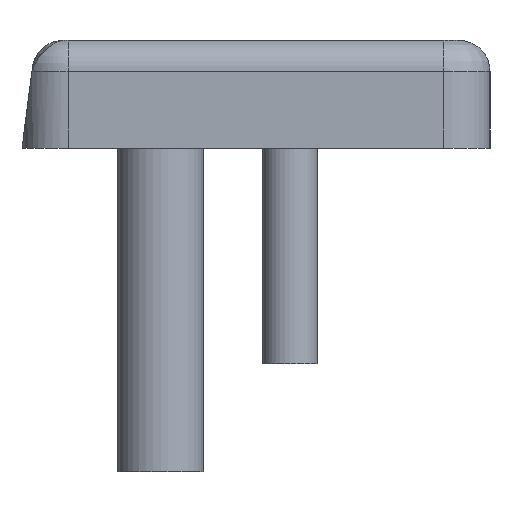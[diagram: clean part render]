
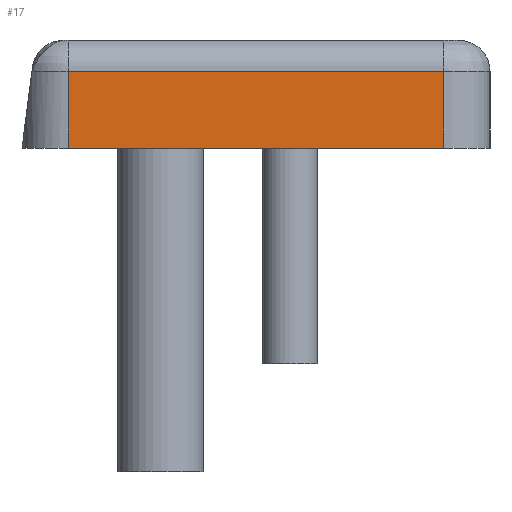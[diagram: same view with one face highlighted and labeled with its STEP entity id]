
A CAD part, left-side view. The second image highlights one B-rep face of the part: STEP entity #17.
In plain terms, the highlighted planar face has unit normal (-1, 0, 0).
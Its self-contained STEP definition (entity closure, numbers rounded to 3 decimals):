
#17 = ADVANCED_FACE('',(#18),#32,.F.);
#18 = FACE_BOUND('',#19,.F.);
#19 = EDGE_LOOP('',(#20,#55,#83,#111));
#20 = ORIENTED_EDGE('',*,*,#21,.F.);
#21 = EDGE_CURVE('',#22,#24,#26,.T.);
#22 = VERTEX_POINT('',#23);
#23 = CARTESIAN_POINT('',(-52.6,-6.1,0.));
#24 = VERTEX_POINT('',#25);
#25 = CARTESIAN_POINT('',(-52.6,-6.1,2.5));
#26 = SURFACE_CURVE('',#27,(#31,#43),.PCURVE_S1.);
#27 = LINE('',#28,#29);
#28 = CARTESIAN_POINT('',(-52.6,-6.1,0.));
#29 = VECTOR('',#30,1.);
#30 = DIRECTION('',(0.,0.,1.));
#31 = PCURVE('',#32,#37);
#32 = PLANE('',#33);
#33 = AXIS2_PLACEMENT_3D('',#34,#35,#36);
#34 = CARTESIAN_POINT('',(-52.6,-7.6,0.));
#35 = DIRECTION('',(1.,0.,0.));
#36 = DIRECTION('',(0.,0.,1.));
#37 = DEFINITIONAL_REPRESENTATION('',(#38),#42);
#38 = LINE('',#39,#40);
#39 = CARTESIAN_POINT('',(0.,-1.5));
#40 = VECTOR('',#41,1.);
#41 = DIRECTION('',(1.,0.));
#42 = ( GEOMETRIC_REPRESENTATION_CONTEXT(2) 
PARAMETRIC_REPRESENTATION_CONTEXT() REPRESENTATION_CONTEXT('2D SPACE',''
  ) );
#43 = PCURVE('',#44,#49);
#44 = CYLINDRICAL_SURFACE('',#45,1.5);
#45 = AXIS2_PLACEMENT_3D('',#46,#47,#48);
#46 = CARTESIAN_POINT('',(-51.1,-6.1,0.));
#47 = DIRECTION('',(0.,0.,1.));
#48 = DIRECTION('',(-1.,-0.,0.));
#49 = DEFINITIONAL_REPRESENTATION('',(#50),#54);
#50 = LINE('',#51,#52);
#51 = CARTESIAN_POINT('',(0.,0.));
#52 = VECTOR('',#53,1.);
#53 = DIRECTION('',(0.,1.));
#54 = ( GEOMETRIC_REPRESENTATION_CONTEXT(2) 
PARAMETRIC_REPRESENTATION_CONTEXT() REPRESENTATION_CONTEXT('2D SPACE',''
  ) );
#55 = ORIENTED_EDGE('',*,*,#56,.T.);
#56 = EDGE_CURVE('',#22,#57,#59,.T.);
#57 = VERTEX_POINT('',#58);
#58 = CARTESIAN_POINT('',(-52.6,6.1,0.));
#59 = SURFACE_CURVE('',#60,(#64,#71),.PCURVE_S1.);
#60 = LINE('',#61,#62);
#61 = CARTESIAN_POINT('',(-52.6,-7.6,0.));
#62 = VECTOR('',#63,1.);
#63 = DIRECTION('',(0.,1.,0.));
#64 = PCURVE('',#32,#65);
#65 = DEFINITIONAL_REPRESENTATION('',(#66),#70);
#66 = LINE('',#67,#68);
#67 = CARTESIAN_POINT('',(0.,0.));
#68 = VECTOR('',#69,1.);
#69 = DIRECTION('',(0.,-1.));
#70 = ( GEOMETRIC_REPRESENTATION_CONTEXT(2) 
PARAMETRIC_REPRESENTATION_CONTEXT() REPRESENTATION_CONTEXT('2D SPACE',''
  ) );
#71 = PCURVE('',#72,#77);
#72 = PLANE('',#73);
#73 = AXIS2_PLACEMENT_3D('',#74,#75,#76);
#74 = CARTESIAN_POINT('',(-52.6,-7.6,0.));
#75 = DIRECTION('',(0.,0.,1.));
#76 = DIRECTION('',(1.,0.,0.));
#77 = DEFINITIONAL_REPRESENTATION('',(#78),#82);
#78 = LINE('',#79,#80);
#79 = CARTESIAN_POINT('',(0.,0.));
#80 = VECTOR('',#81,1.);
#81 = DIRECTION('',(0.,1.));
#82 = ( GEOMETRIC_REPRESENTATION_CONTEXT(2) 
PARAMETRIC_REPRESENTATION_CONTEXT() REPRESENTATION_CONTEXT('2D SPACE',''
  ) );
#83 = ORIENTED_EDGE('',*,*,#84,.T.);
#84 = EDGE_CURVE('',#57,#85,#87,.T.);
#85 = VERTEX_POINT('',#86);
#86 = CARTESIAN_POINT('',(-52.6,6.1,2.5));
#87 = SURFACE_CURVE('',#88,(#92,#99),.PCURVE_S1.);
#88 = LINE('',#89,#90);
#89 = CARTESIAN_POINT('',(-52.6,6.1,0.));
#90 = VECTOR('',#91,1.);
#91 = DIRECTION('',(0.,0.,1.));
#92 = PCURVE('',#32,#93);
#93 = DEFINITIONAL_REPRESENTATION('',(#94),#98);
#94 = LINE('',#95,#96);
#95 = CARTESIAN_POINT('',(0.,-13.7));
#96 = VECTOR('',#97,1.);
#97 = DIRECTION('',(1.,0.));
#98 = ( GEOMETRIC_REPRESENTATION_CONTEXT(2) 
PARAMETRIC_REPRESENTATION_CONTEXT() REPRESENTATION_CONTEXT('2D SPACE',''
  ) );
#99 = PCURVE('',#100,#105);
#100 = CYLINDRICAL_SURFACE('',#101,1.5);
#101 = AXIS2_PLACEMENT_3D('',#102,#103,#104);
#102 = CARTESIAN_POINT('',(-51.1,6.1,0.));
#103 = DIRECTION('',(0.,0.,1.));
#104 = DIRECTION('',(-1.,-0.,0.));
#105 = DEFINITIONAL_REPRESENTATION('',(#106),#110);
#106 = LINE('',#107,#108);
#107 = CARTESIAN_POINT('',(-0.,0.));
#108 = VECTOR('',#109,1.);
#109 = DIRECTION('',(-0.,1.));
#110 = ( GEOMETRIC_REPRESENTATION_CONTEXT(2) 
PARAMETRIC_REPRESENTATION_CONTEXT() REPRESENTATION_CONTEXT('2D SPACE',''
  ) );
#111 = ORIENTED_EDGE('',*,*,#112,.F.);
#112 = EDGE_CURVE('',#24,#85,#113,.T.);
#113 = SURFACE_CURVE('',#114,(#118,#125),.PCURVE_S1.);
#114 = LINE('',#115,#116);
#115 = CARTESIAN_POINT('',(-52.6,-6.1,2.5));
#116 = VECTOR('',#117,1.);
#117 = DIRECTION('',(0.,1.,0.));
#118 = PCURVE('',#32,#119);
#119 = DEFINITIONAL_REPRESENTATION('',(#120),#124);
#120 = LINE('',#121,#122);
#121 = CARTESIAN_POINT('',(2.5,-1.5));
#122 = VECTOR('',#123,1.);
#123 = DIRECTION('',(0.,-1.));
#124 = ( GEOMETRIC_REPRESENTATION_CONTEXT(2) 
PARAMETRIC_REPRESENTATION_CONTEXT() REPRESENTATION_CONTEXT('2D SPACE',''
  ) );
#125 = PCURVE('',#126,#131);
#126 = CYLINDRICAL_SURFACE('',#127,1.);
#127 = AXIS2_PLACEMENT_3D('',#128,#129,#130);
#128 = CARTESIAN_POINT('',(-51.6,-6.1,2.5));
#129 = DIRECTION('',(0.,1.,0.));
#130 = DIRECTION('',(-1.,0.,0.));
#131 = DEFINITIONAL_REPRESENTATION('',(#132),#136);
#132 = LINE('',#133,#134);
#133 = CARTESIAN_POINT('',(0.,0.));
#134 = VECTOR('',#135,1.);
#135 = DIRECTION('',(0.,1.));
#136 = ( GEOMETRIC_REPRESENTATION_CONTEXT(2) 
PARAMETRIC_REPRESENTATION_CONTEXT() REPRESENTATION_CONTEXT('2D SPACE',''
  ) );
